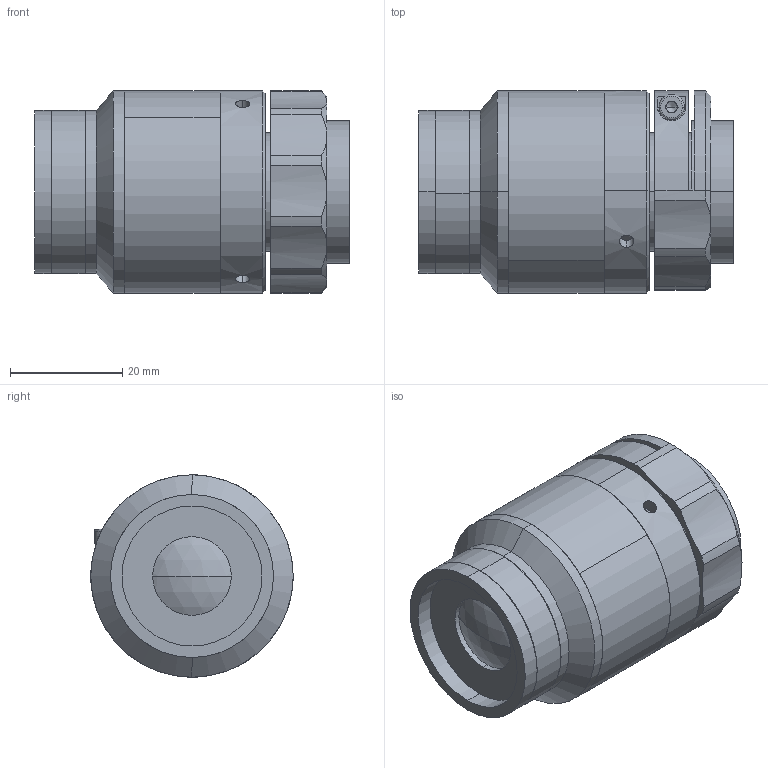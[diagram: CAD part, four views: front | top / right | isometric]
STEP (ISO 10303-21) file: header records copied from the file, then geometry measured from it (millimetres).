
FILE_DESCRIPTION (( 'STEP AP203' ), '1' );
FILE_NAME ('XF-MH03X166.STEP', '2020-08-24T07:07:17', ( 'canrill-02' ), ( '' ), 'SwSTEP 2.0', 'SolidWorks 2014', '' );
FILE_SCHEMA (( 'CONFIG_CONTROL_DESIGN' ));
Length unit declared in the file: millimetre
Products named in the file (1): XF-MH03X166
Bounding box: 56.02 x 36 x 36 mm (x, y, z)
Surface area: 12174 mm2 (no closed solid volume)
Topology: 0 solids, 11 shells, 99 faces, 264 edges, 178 vertices
Faces by surface type: cylinder 47, plane 33, cone 15, sphere 2, torus 2
Entity records: 3463 total; most frequent: CARTESIAN_POINT 861, DIRECTION 579, ORIENTED_EDGE 447, EDGE_CURVE 262, AXIS2_PLACEMENT_3D 240, VERTEX_POINT 178, CIRCLE 140, EDGE_LOOP 123
